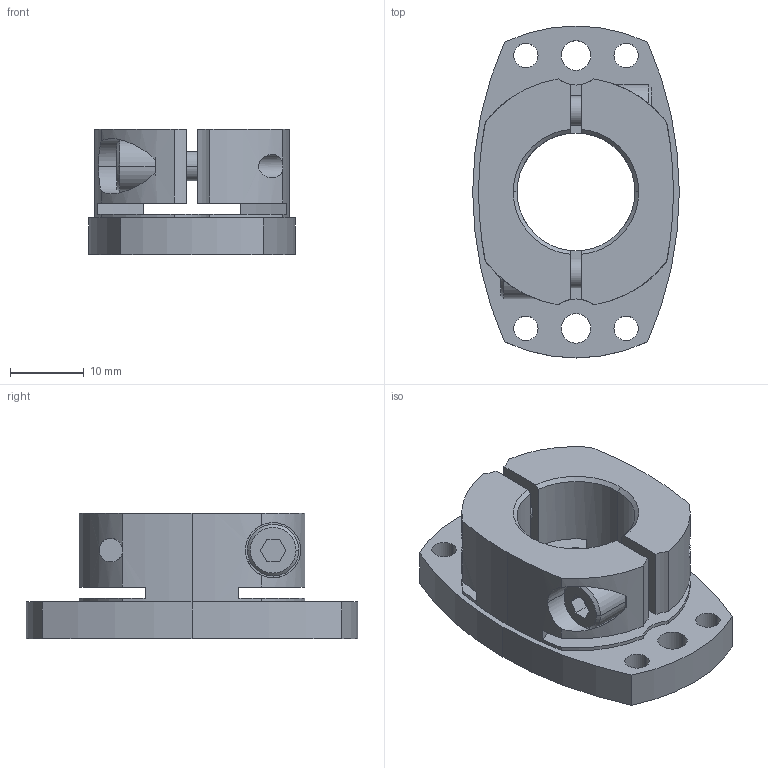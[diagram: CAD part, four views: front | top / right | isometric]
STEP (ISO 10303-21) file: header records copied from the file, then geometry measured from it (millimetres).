
FILE_DESCRIPTION((''),'2;1');
FILE_NAME('SHDB-45B-16.stp','2026-01-27T12:43:26',(''),(''),'AutoCAD STEP 2000i','AutoCAD 2000i',', , ');
FILE_SCHEMA(('CONFIG_CONTROL_DESIGN'));
Length unit declared in the file: millimetre
Products named in the file (2): SHDB-45B-15; 忣兜1
Assembly tree (1 placements, depth 2):
  SHDB-45B-15
    忣兜1
Bounding box: 28 x 45 x 17 mm (x, y, z)
Volume: 9066.8 mm3; surface area: 5827 mm2
Topology: 1 solids, 1 shells, 102 faces, 280 edges, 184 vertices
Faces by surface type: cylinder 58, plane 34, cone 10
Entity records: 3677 total; most frequent: CARTESIAN_POINT 850, DIRECTION 602, ORIENTED_EDGE 560, EDGE_CURVE 280, AXIS2_PLACEMENT_3D 238, VERTEX_POINT 184, CIRCLE 134, VECTOR 126
